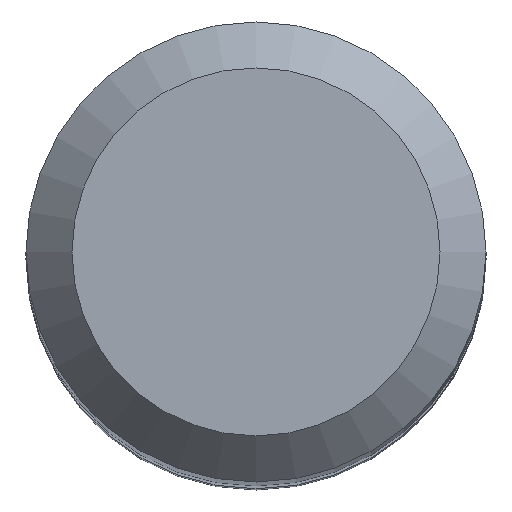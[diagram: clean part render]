
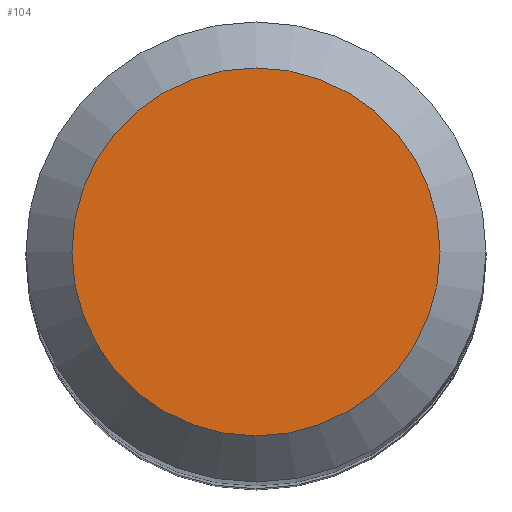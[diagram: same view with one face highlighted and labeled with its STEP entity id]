
A CAD part, top view. The second image highlights one B-rep face of the part: STEP entity #104.
In plain terms, the highlighted planar face has unit normal (0, 0, 1).
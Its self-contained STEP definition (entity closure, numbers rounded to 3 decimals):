
#88=CARTESIAN_POINT('',(4.0,0.0,100.0));
#89=DIRECTION('',(0.0,0.0,1.0));
#90=DIRECTION('',(1.0,0.0,0.0));
#91=AXIS2_PLACEMENT_3D('',#88,#89,#90);
#92=PLANE('',#91);
#93=CARTESIAN_POINT('',(-4.0,0.0,100.0));
#94=VERTEX_POINT('',#93);
#95=CARTESIAN_POINT('',(0.0,0.0,100.0));
#96=DIRECTION('',(0.0,0.0,-1.0));
#97=DIRECTION('',(-1.0,0.0,0.0));
#98=AXIS2_PLACEMENT_3D('',#95,#96,#97);
#99=CIRCLE('',#98,4.0);
#100=EDGE_CURVE('',#94,#94,#99,.T.);
#101=ORIENTED_EDGE('',*,*,#100,.F.);
#102=EDGE_LOOP('',(#101));
#103=FACE_OUTER_BOUND('',#102,.T.);
#104=ADVANCED_FACE('',(#103),#92,.T.);
